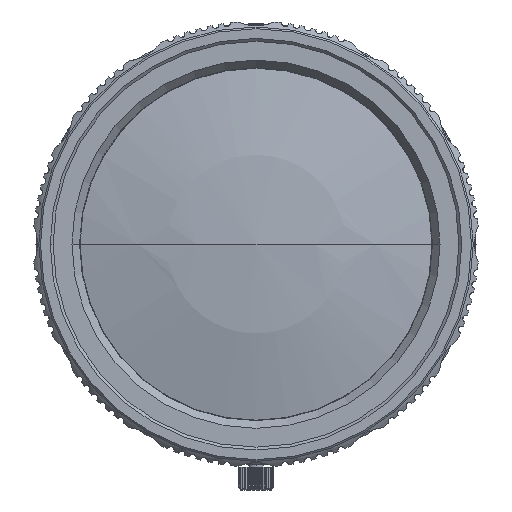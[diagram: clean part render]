
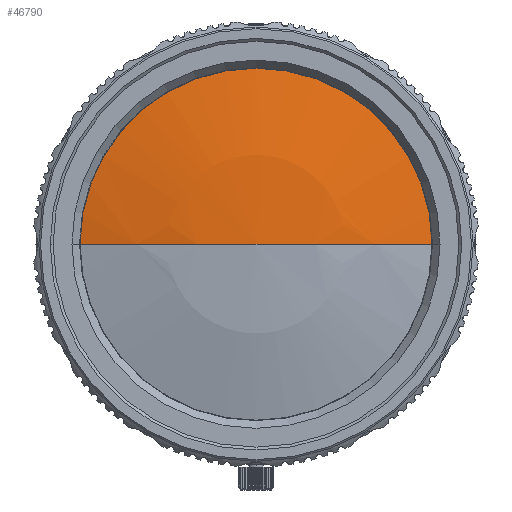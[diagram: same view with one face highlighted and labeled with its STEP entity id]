
A CAD part, left-side view. The second image highlights one B-rep face of the part: STEP entity #46790.
In plain terms, the highlighted spherical face has radius 122.426 mm.
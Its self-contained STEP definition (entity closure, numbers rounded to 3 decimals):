
#13522=CARTESIAN_POINT('',(-62.857,0.,0.));
#13523=DIRECTION('',(-1.,0.,0.));
#13524=DIRECTION('',(0.,-1.,0.));
#13525=AXIS2_PLACEMENT_3D('',#13522,#13523,#13524);
#13547=CARTESIAN_POINT('',(55.59,0.,0.));
#13548=DIRECTION('',(0.,0.,-1.));
#13549=DIRECTION('',(-1.,0.,0.));
#13550=AXIS2_PLACEMENT_3D('',#13547,#13548,#13549);
#13552=CARTESIAN_POINT('',(55.59,0.,0.));
#13553=DIRECTION('',(0.,0.,1.));
#13554=DIRECTION('',(-1.,0.,0.));
#13555=AXIS2_PLACEMENT_3D('',#13552,#13553,#13554);
#37736=CARTESIAN_POINT('',(-62.857,-30.958,
0.));
#37737=CARTESIAN_POINT('',(-62.857,30.958,
0.));
#37738=VERTEX_POINT('',#37736);
#37739=VERTEX_POINT('',#37737);
#37740=CARTESIAN_POINT('',(-66.836,0.,0.));
#37741=VERTEX_POINT('',#37740);
#46778=CARTESIAN_POINT('',(55.59,0.,0.));
#46779=DIRECTION('',(1.,0.,0.));
#46780=DIRECTION('',(0.,-1.,0.));
#46781=AXIS2_PLACEMENT_3D('',#46778,#46779,#46780);
#46782=SPHERICAL_SURFACE('',#46781,122.426);
#46783=ORIENTED_EDGE('',*,*,#46757,.F.);
#46785=ORIENTED_EDGE('',*,*,#46784,.F.);
#46787=ORIENTED_EDGE('',*,*,#46786,.T.);
#46788=EDGE_LOOP('',(#46783,#46785,#46787));
#46789=FACE_OUTER_BOUND('',#46788,.F.);
#13526=CIRCLE('',#13525,30.958);
#13551=CIRCLE('',#13550,122.426);
#13556=CIRCLE('',#13555,122.426);
#46757=EDGE_CURVE('',#37738,#37739,#13526,.T.);
#46784=EDGE_CURVE('',#37741,#37738,#13556,.T.);
#46786=EDGE_CURVE('',#37741,#37739,#13551,.T.);
#46790=ADVANCED_FACE('',(#46789),#46782,.T.);
